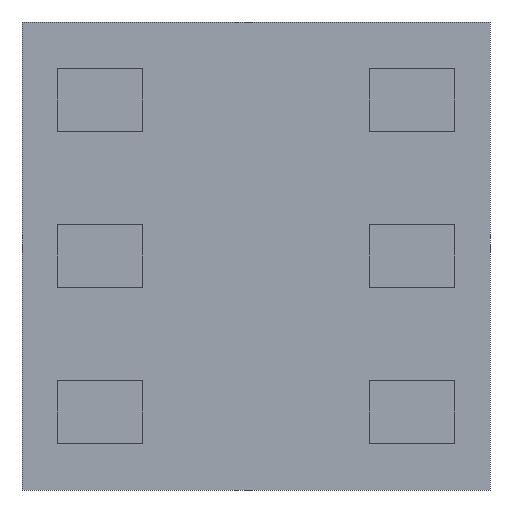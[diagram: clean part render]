
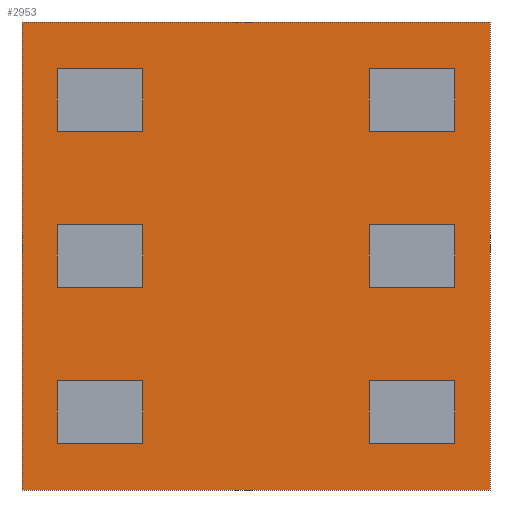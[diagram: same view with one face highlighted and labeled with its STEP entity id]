
A CAD part, front view. The second image highlights one B-rep face of the part: STEP entity #2953.
In plain terms, the highlighted planar face has unit normal (0, -1, 0).
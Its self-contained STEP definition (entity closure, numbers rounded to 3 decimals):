
#62=FACE_BOUND('',#491,.T.);
#63=FACE_BOUND('',#492,.T.);
#64=FACE_BOUND('',#493,.T.);
#65=FACE_BOUND('',#494,.T.);
#66=FACE_BOUND('',#495,.T.);
#67=FACE_BOUND('',#496,.T.);
#313=FACE_OUTER_BOUND('',#490,.T.);
#490=EDGE_LOOP('',(#2540,#2541,#2542,#2543));
#491=EDGE_LOOP('',(#2544,#2545,#2546,#2547));
#492=EDGE_LOOP('',(#2548,#2549,#2550,#2551));
#493=EDGE_LOOP('',(#2552,#2553,#2554,#2555));
#494=EDGE_LOOP('',(#2556,#2557,#2558,#2559));
#495=EDGE_LOOP('',(#2560,#2561,#2562,#2563));
#496=EDGE_LOOP('',(#2564,#2565,#2566,#2567));
#704=LINE('',#4959,#1029);
#707=LINE('',#4965,#1032);
#710=LINE('',#4971,#1035);
#713=LINE('',#4975,#1038);
#716=LINE('',#4983,#1041);
#719=LINE('',#4989,#1044);
#722=LINE('',#4995,#1047);
#725=LINE('',#4999,#1050);
#728=LINE('',#5007,#1053);
#731=LINE('',#5013,#1056);
#734=LINE('',#5019,#1059);
#737=LINE('',#5023,#1062);
#740=LINE('',#5031,#1065);
#743=LINE('',#5037,#1068);
#746=LINE('',#5043,#1071);
#749=LINE('',#5047,#1074);
#752=LINE('',#5055,#1077);
#755=LINE('',#5061,#1080);
#758=LINE('',#5067,#1083);
#761=LINE('',#5071,#1086);
#764=LINE('',#5079,#1089);
#767=LINE('',#5085,#1092);
#770=LINE('',#5091,#1095);
#773=LINE('',#5095,#1098);
#776=LINE('',#5103,#1101);
#779=LINE('',#5109,#1104);
#782=LINE('',#5115,#1107);
#785=LINE('',#5119,#1110);
#1029=VECTOR('',#3456,10.);
#1032=VECTOR('',#3461,10.);
#1035=VECTOR('',#3466,10.);
#1038=VECTOR('',#3471,10.);
#1041=VECTOR('',#3476,10.);
#1044=VECTOR('',#3481,10.);
#1047=VECTOR('',#3486,10.);
#1050=VECTOR('',#3491,10.);
#1053=VECTOR('',#3496,10.);
#1056=VECTOR('',#3501,10.);
#1059=VECTOR('',#3506,10.);
#1062=VECTOR('',#3511,10.);
#1065=VECTOR('',#3516,10.);
#1068=VECTOR('',#3521,10.);
#1071=VECTOR('',#3526,10.);
#1074=VECTOR('',#3531,10.);
#1077=VECTOR('',#3536,10.);
#1080=VECTOR('',#3541,10.);
#1083=VECTOR('',#3546,10.);
#1086=VECTOR('',#3551,10.);
#1089=VECTOR('',#3556,10.);
#1092=VECTOR('',#3561,10.);
#1095=VECTOR('',#3566,10.);
#1098=VECTOR('',#3571,10.);
#1101=VECTOR('',#3576,10.);
#1104=VECTOR('',#3581,10.);
#1107=VECTOR('',#3586,10.);
#1110=VECTOR('',#3591,10.);
#1359=VERTEX_POINT('',#4956);
#1360=VERTEX_POINT('',#4958);
#1362=VERTEX_POINT('',#4964);
#1364=VERTEX_POINT('',#4970);
#1367=VERTEX_POINT('',#4980);
#1368=VERTEX_POINT('',#4982);
#1370=VERTEX_POINT('',#4988);
#1372=VERTEX_POINT('',#4994);
#1375=VERTEX_POINT('',#5004);
#1376=VERTEX_POINT('',#5006);
#1378=VERTEX_POINT('',#5012);
#1380=VERTEX_POINT('',#5018);
#1383=VERTEX_POINT('',#5028);
#1384=VERTEX_POINT('',#5030);
#1386=VERTEX_POINT('',#5036);
#1388=VERTEX_POINT('',#5042);
#1391=VERTEX_POINT('',#5052);
#1392=VERTEX_POINT('',#5054);
#1394=VERTEX_POINT('',#5060);
#1396=VERTEX_POINT('',#5066);
#1399=VERTEX_POINT('',#5076);
#1400=VERTEX_POINT('',#5078);
#1402=VERTEX_POINT('',#5084);
#1404=VERTEX_POINT('',#5090);
#1407=VERTEX_POINT('',#5100);
#1408=VERTEX_POINT('',#5102);
#1410=VERTEX_POINT('',#5108);
#1412=VERTEX_POINT('',#5114);
#1724=EDGE_CURVE('',#1360,#1359,#704,.T.);
#1727=EDGE_CURVE('',#1362,#1360,#707,.T.);
#1730=EDGE_CURVE('',#1364,#1362,#710,.T.);
#1733=EDGE_CURVE('',#1359,#1364,#713,.T.);
#1736=EDGE_CURVE('',#1368,#1367,#716,.T.);
#1739=EDGE_CURVE('',#1370,#1368,#719,.T.);
#1742=EDGE_CURVE('',#1372,#1370,#722,.T.);
#1745=EDGE_CURVE('',#1367,#1372,#725,.T.);
#1748=EDGE_CURVE('',#1376,#1375,#728,.T.);
#1751=EDGE_CURVE('',#1378,#1376,#731,.T.);
#1754=EDGE_CURVE('',#1380,#1378,#734,.T.);
#1757=EDGE_CURVE('',#1375,#1380,#737,.T.);
#1760=EDGE_CURVE('',#1384,#1383,#740,.T.);
#1763=EDGE_CURVE('',#1386,#1384,#743,.T.);
#1766=EDGE_CURVE('',#1388,#1386,#746,.T.);
#1769=EDGE_CURVE('',#1383,#1388,#749,.T.);
#1772=EDGE_CURVE('',#1392,#1391,#752,.T.);
#1775=EDGE_CURVE('',#1394,#1392,#755,.T.);
#1778=EDGE_CURVE('',#1396,#1394,#758,.T.);
#1781=EDGE_CURVE('',#1391,#1396,#761,.T.);
#1784=EDGE_CURVE('',#1400,#1399,#764,.T.);
#1787=EDGE_CURVE('',#1402,#1400,#767,.T.);
#1790=EDGE_CURVE('',#1404,#1402,#770,.T.);
#1793=EDGE_CURVE('',#1399,#1404,#773,.T.);
#1796=EDGE_CURVE('',#1408,#1407,#776,.T.);
#1799=EDGE_CURVE('',#1410,#1408,#779,.T.);
#1802=EDGE_CURVE('',#1412,#1410,#782,.T.);
#1805=EDGE_CURVE('',#1407,#1412,#785,.T.);
#2540=ORIENTED_EDGE('',*,*,#1805,.T.);
#2541=ORIENTED_EDGE('',*,*,#1802,.T.);
#2542=ORIENTED_EDGE('',*,*,#1799,.T.);
#2543=ORIENTED_EDGE('',*,*,#1796,.T.);
#2544=ORIENTED_EDGE('',*,*,#1793,.T.);
#2545=ORIENTED_EDGE('',*,*,#1790,.T.);
#2546=ORIENTED_EDGE('',*,*,#1787,.T.);
#2547=ORIENTED_EDGE('',*,*,#1784,.T.);
#2548=ORIENTED_EDGE('',*,*,#1781,.T.);
#2549=ORIENTED_EDGE('',*,*,#1778,.T.);
#2550=ORIENTED_EDGE('',*,*,#1775,.T.);
#2551=ORIENTED_EDGE('',*,*,#1772,.T.);
#2552=ORIENTED_EDGE('',*,*,#1769,.T.);
#2553=ORIENTED_EDGE('',*,*,#1766,.T.);
#2554=ORIENTED_EDGE('',*,*,#1763,.T.);
#2555=ORIENTED_EDGE('',*,*,#1760,.T.);
#2556=ORIENTED_EDGE('',*,*,#1757,.T.);
#2557=ORIENTED_EDGE('',*,*,#1754,.T.);
#2558=ORIENTED_EDGE('',*,*,#1751,.T.);
#2559=ORIENTED_EDGE('',*,*,#1748,.T.);
#2560=ORIENTED_EDGE('',*,*,#1745,.T.);
#2561=ORIENTED_EDGE('',*,*,#1742,.T.);
#2562=ORIENTED_EDGE('',*,*,#1739,.T.);
#2563=ORIENTED_EDGE('',*,*,#1736,.T.);
#2564=ORIENTED_EDGE('',*,*,#1733,.T.);
#2565=ORIENTED_EDGE('',*,*,#1730,.T.);
#2566=ORIENTED_EDGE('',*,*,#1727,.T.);
#2567=ORIENTED_EDGE('',*,*,#1724,.T.);
#2791=PLANE('',#3108);
#2953=ADVANCED_FACE('',(#313,#62,#63,#64,#65,#66,#67),#2791,.T.);
#3108=AXIS2_PLACEMENT_3D('',#5121,#3594,#3595);
#3456=DIRECTION('',(0.,0.,1.));
#3461=DIRECTION('',(-1.,0.,0.));
#3466=DIRECTION('',(0.,0.,-1.));
#3471=DIRECTION('',(1.,0.,0.));
#3476=DIRECTION('',(0.,0.,-1.));
#3481=DIRECTION('',(1.,0.,0.));
#3486=DIRECTION('',(0.,0.,1.));
#3491=DIRECTION('',(-1.,0.,0.));
#3496=DIRECTION('',(0.,0.,-1.));
#3501=DIRECTION('',(1.,0.,0.));
#3506=DIRECTION('',(0.,0.,1.));
#3511=DIRECTION('',(-1.,0.,0.));
#3516=DIRECTION('',(0.,0.,-1.));
#3521=DIRECTION('',(1.,0.,0.));
#3526=DIRECTION('',(0.,0.,1.));
#3531=DIRECTION('',(-1.,0.,0.));
#3536=DIRECTION('',(0.,0.,1.));
#3541=DIRECTION('',(-1.,0.,0.));
#3546=DIRECTION('',(0.,0.,-1.));
#3551=DIRECTION('',(1.,0.,0.));
#3556=DIRECTION('',(1.,0.,0.));
#3561=DIRECTION('',(0.,0.,1.));
#3566=DIRECTION('',(-1.,0.,0.));
#3571=DIRECTION('',(0.,0.,-1.));
#3576=DIRECTION('',(-1.,0.,0.));
#3581=DIRECTION('',(0.,0.,1.));
#3586=DIRECTION('',(1.,0.,0.));
#3591=DIRECTION('',(0.,0.,-1.));
#3594=DIRECTION('center_axis',(0.,-1.,0.));
#3595=DIRECTION('ref_axis',(0.,0.,-1.));
#4956=CARTESIAN_POINT('',(0.225,-0.25,1.7));
#4958=CARTESIAN_POINT('',(0.225,-0.25,1.3));
#4959=CARTESIAN_POINT('',(0.225,-0.25,1.7));
#4964=CARTESIAN_POINT('',(0.775,-0.25,1.3));
#4965=CARTESIAN_POINT('',(0.225,-0.25,1.3));
#4970=CARTESIAN_POINT('',(0.775,-0.25,1.7));
#4971=CARTESIAN_POINT('',(0.775,-0.25,1.3));
#4975=CARTESIAN_POINT('',(0.775,-0.25,1.7));
#4980=CARTESIAN_POINT('',(2.775,-0.25,1.3));
#4982=CARTESIAN_POINT('',(2.775,-0.25,1.7));
#4983=CARTESIAN_POINT('',(2.775,-0.25,1.3));
#4988=CARTESIAN_POINT('',(2.225,-0.25,1.7));
#4989=CARTESIAN_POINT('',(2.775,-0.25,1.7));
#4994=CARTESIAN_POINT('',(2.225,-0.25,1.3));
#4995=CARTESIAN_POINT('',(2.225,-0.25,1.7));
#4999=CARTESIAN_POINT('',(2.225,-0.25,1.3));
#5004=CARTESIAN_POINT('',(2.775,-0.25,0.3));
#5006=CARTESIAN_POINT('',(2.775,-0.25,0.7));
#5007=CARTESIAN_POINT('',(2.775,-0.25,0.3));
#5012=CARTESIAN_POINT('',(2.225,-0.25,0.7));
#5013=CARTESIAN_POINT('',(2.775,-0.25,0.7));
#5018=CARTESIAN_POINT('',(2.225,-0.25,0.3));
#5019=CARTESIAN_POINT('',(2.225,-0.25,0.7));
#5023=CARTESIAN_POINT('',(2.225,-0.25,0.3));
#5028=CARTESIAN_POINT('',(0.775,-0.25,2.3));
#5030=CARTESIAN_POINT('',(0.775,-0.25,2.7));
#5031=CARTESIAN_POINT('',(0.775,-0.25,2.3));
#5036=CARTESIAN_POINT('',(0.225,-0.25,2.7));
#5037=CARTESIAN_POINT('',(0.775,-0.25,2.7));
#5042=CARTESIAN_POINT('',(0.225,-0.25,2.3));
#5043=CARTESIAN_POINT('',(0.225,-0.25,2.7));
#5047=CARTESIAN_POINT('',(0.225,-0.25,2.3));
#5052=CARTESIAN_POINT('',(0.225,-0.25,0.7));
#5054=CARTESIAN_POINT('',(0.225,-0.25,0.3));
#5055=CARTESIAN_POINT('',(0.225,-0.25,0.7));
#5060=CARTESIAN_POINT('',(0.775,-0.25,0.3));
#5061=CARTESIAN_POINT('',(0.225,-0.25,0.3));
#5066=CARTESIAN_POINT('',(0.775,-0.25,0.7));
#5067=CARTESIAN_POINT('',(0.775,-0.25,0.3));
#5071=CARTESIAN_POINT('',(0.775,-0.25,0.7));
#5076=CARTESIAN_POINT('',(2.775,-0.25,2.7));
#5078=CARTESIAN_POINT('',(2.225,-0.25,2.7));
#5079=CARTESIAN_POINT('',(2.775,-0.25,2.7));
#5084=CARTESIAN_POINT('',(2.225,-0.25,2.3));
#5085=CARTESIAN_POINT('',(2.225,-0.25,2.7));
#5090=CARTESIAN_POINT('',(2.775,-0.25,2.3));
#5091=CARTESIAN_POINT('',(2.225,-0.25,2.3));
#5095=CARTESIAN_POINT('',(2.775,-0.25,2.3));
#5100=CARTESIAN_POINT('',(0.,-0.25,3.));
#5102=CARTESIAN_POINT('',(3.,-0.25,3.));
#5103=CARTESIAN_POINT('',(0.,-0.25,3.));
#5108=CARTESIAN_POINT('',(3.,-0.25,0.));
#5109=CARTESIAN_POINT('',(3.,-0.25,3.));
#5114=CARTESIAN_POINT('',(0.,-0.25,0.));
#5115=CARTESIAN_POINT('',(0.,-0.25,0.));
#5119=CARTESIAN_POINT('',(0.,-0.25,1.5));
#5121=CARTESIAN_POINT('Origin',(1.5,-0.25,1.5));
